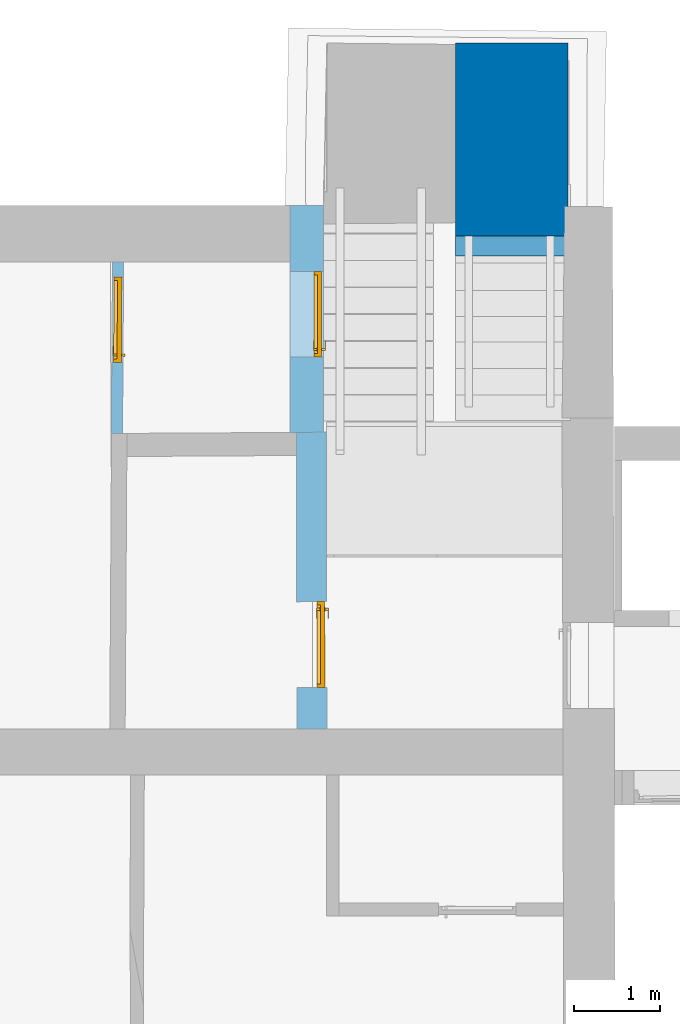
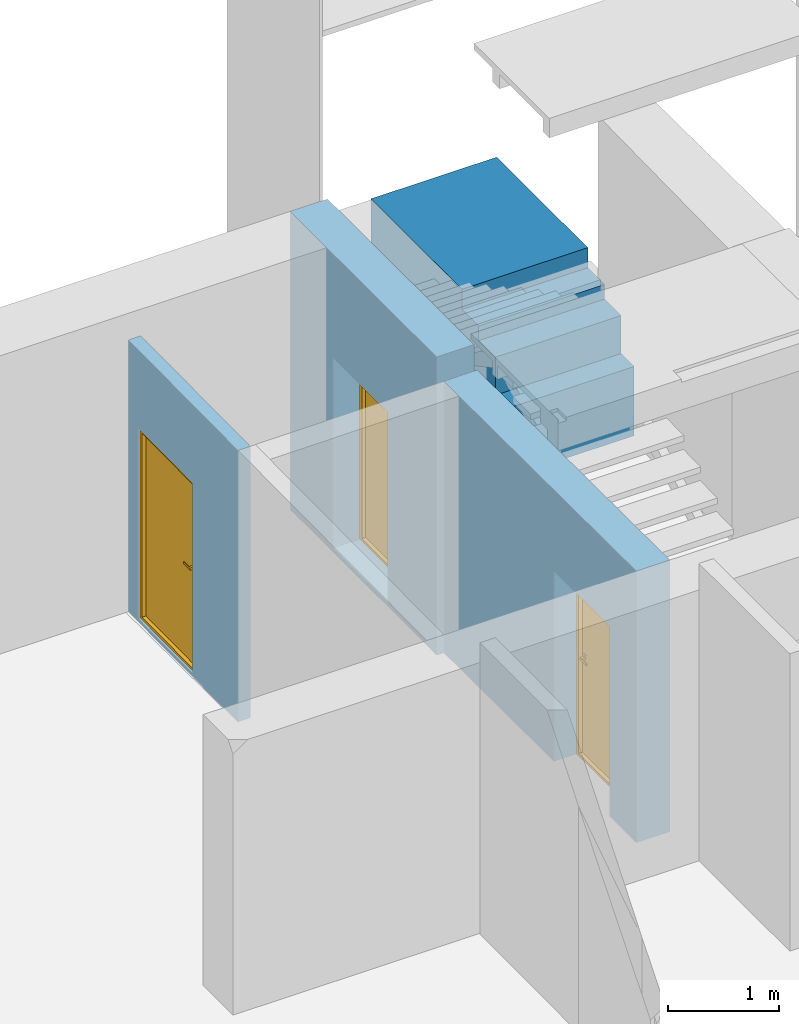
# One storey, part 11 of 17: 3 doors, 1 wall, 4 openings, plus 3 elements that do not belong to this part.
"""IFC2X3 building model written with IfcOpenShell, lengths in millimetres."""

from ifc_helpers import new_model, entity, si_unit, converted_unit, derived_unit, direction, frame, frame_2d, origin, place, context, subcontext, project, spatial, polyline, rectangle, outline, extrude, clip, bounded_halfspace, faceted_brep, source, transform, mapped, material, material_list, layer, layer_set, layer_usage, type_object, type_shapes, element, fill, save


model = new_model("IFC2X3")

# Units and contexts
model_context = context("Model", 3, precision=0.01, world=origin(), true_north=direction((6.12303176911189e-17, 1.0)))
context_of_model = context(None, 3, precision=0.01, world=origin(), true_north=direction((6.12303176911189e-17, 1.0)))
body_context = subcontext(model_context, "Body", "Model", "MODEL_VIEW")
ifc_project = project(units=[si_unit("LENGTHUNIT", "METRE", prefix="MILLI"), si_unit("AREAUNIT", "SQUARE_METRE"), si_unit("VOLUMEUNIT", "CUBIC_METRE"), converted_unit("PLANEANGLEUNIT", "DEGREE", entity("IfcRatioMeasure", 0.0174532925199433), si_unit("PLANEANGLEUNIT", "RADIAN"), dimensions=[0, 0, 0, 0, 0, 0, 0]), si_unit("MASSUNIT", "GRAM", prefix="KILO"), derived_unit("MASSDENSITYUNIT", [(si_unit("MASSUNIT", "GRAM", prefix="KILO"), 1), (si_unit("LENGTHUNIT", "METRE"), -3)]), si_unit("TIMEUNIT", "SECOND"), si_unit("FREQUENCYUNIT", "HERTZ"), si_unit("THERMODYNAMICTEMPERATUREUNIT", "DEGREE_CELSIUS"), derived_unit("THERMALTRANSMITTANCEUNIT", [(si_unit("MASSUNIT", "GRAM", prefix="KILO"), 1), (si_unit("THERMODYNAMICTEMPERATUREUNIT", "KELVIN"), -1), (si_unit("TIMEUNIT", "SECOND"), -3)]), derived_unit("VOLUMETRICFLOWRATEUNIT", [(si_unit("LENGTHUNIT", "METRE"), 3), (si_unit("TIMEUNIT", "SECOND"), -1)]), si_unit("ELECTRICCURRENTUNIT", "AMPERE"), si_unit("ELECTRICVOLTAGEUNIT", "VOLT"), si_unit("POWERUNIT", "WATT"), si_unit("FORCEUNIT", "NEWTON", prefix="KILO"), si_unit("ILLUMINANCEUNIT", "LUX"), si_unit("LUMINOUSFLUXUNIT", "LUMEN"), si_unit("LUMINOUSINTENSITYUNIT", "CANDELA"), derived_unit("USERDEFINED", [(si_unit("MASSUNIT", "GRAM", prefix="KILO"), -1), (si_unit("LENGTHUNIT", "METRE"), -2), (si_unit("TIMEUNIT", "SECOND"), 3), (si_unit("LUMINOUSFLUXUNIT", "LUMEN"), 1)]), derived_unit("LINEARVELOCITYUNIT", [(si_unit("LENGTHUNIT", "METRE"), 1), (si_unit("TIMEUNIT", "SECOND"), -1)]), si_unit("PRESSUREUNIT", "PASCAL"), derived_unit("USERDEFINED", [(si_unit("LENGTHUNIT", "METRE"), -2), (si_unit("MASSUNIT", "GRAM", prefix="KILO"), 1), (si_unit("TIMEUNIT", "SECOND"), -2)])], contexts=[model_context, context_of_model])

# Site, building, storey
site_placement = place(None, frame((121442.264707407, 135347.995453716, -1800.0)))
site = spatial("IfcSite", under=ifc_project, at=site_placement, Name="Surface", CompositionType="ELEMENT")
building_placement = place(site_placement, origin())
building = spatial("IfcBuilding", under=site, at=building_placement, CompositionType="ELEMENT")
storey_placement = place(building_placement, frame((0.0, 0.0, -1490.0)))
storey = spatial("IfcBuildingStorey", under=building, at=storey_placement, Name="Kelder", CompositionType="ELEMENT", Elevation=-1489.99999999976)

# Wall, openings, door
ifc_material_1 = material(Name="__Betoonelement")
ifc_layer_1 = layer(ifc_material_1, 390.0)
ifc_layer_set_1 = layer_set([ifc_layer_1], Name="Basic Wall:39_Betoon 3")
ifc_layer_usage_1 = layer_usage(ifc_layer_set_1, "AXIS2", "POSITIVE", -195.0)
wall_type_1 = type_object("IfcWallType", Name="Basic Wall:39_Betoon 3", PredefinedType="STANDARD", material=ifc_layer_set_1)
wall_1_placement = place(storey_placement, frame((-85548.9772613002, -117488.993950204, 0.0), z_axis=(0.0, 0.0, 1.0), x_axis=(0.0, 1.0, 0.0)))
wall_1 = element("IfcWallStandardCase", 1, at=wall_1_placement, inside=storey, type_object=wall_type_1, material=ifc_layer_usage_1, Name="Basic Wall:39_Betoon 3", ObjectType="Basic Wall:39_Betoon 3", context=body_context, shape_type="SweptSolid", body=[
    extrude(outline(polyline([(-247.566150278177, -1434.44422689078), (142.433849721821, -1434.44422689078), (142.433849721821, -774.444226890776), (142.433849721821, 1215.38830939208), (67.8307513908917, 1214.93352456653), (-247.566150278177, 1213.01084671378), (-247.566150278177, -1434.44422689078)])), frame((1215.38830939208, 52.5661502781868, 0.0), z_axis=(0.0, 0.0, 1.0), x_axis=(0.0, 1.0, 0.0)), (0.0, 0.0, 1.0), 3290.0),
])
opening_1_placement = place(storey_placement, frame((-85548.9772613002, -117488.993950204, 0.0), z_axis=(0.0, 0.0, 1.0), x_axis=(0.0, 1.0, 0.0)))
element("IfcOpeningElement", 2, at=opening_1_placement, cuts=wall_1, Name="Basic Wall:39_Betoon 3:1", ObjectType="Opening", context=body_context, shape_type="SweptSolid", body=[
    extrude(rectangle(XDim=2099.99999999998, YDim=999.999999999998, at=frame_2d((0.0, 8.66862137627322e-12), x_axis=(1.0, 0.0))), frame((1378.89145404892, 195.0, 1095.0), z_axis=(0.0, -1.0, 0.0), x_axis=(0.0, 0.0, 1.0)), (0.0, 0.0, 1.0), 389.999999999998),
])
opening_2_placement = place(wall_1_placement, frame((1878.89145404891, 195.0, 45.0)))
opening_2 = element("IfcOpeningElement", 3, at=opening_2_placement, cuts=wall_1, Name="sma_D01:1000 x 2100mm SU-9 Tuletokke:1", ObjectType="Opening", context=body_context, shape_type="SweptSolid", body=[
    extrude(rectangle(XDim=2099.99999999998, YDim=1000.0, at=frame_2d((1049.99999999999, 500.0), x_axis=(1.0, 0.0))), frame((0.0, 0.0, 0.0), z_axis=(0.0, -1.0, 0.0), x_axis=(0.0, 0.0, 1.0)), (0.0, 0.0, 1.0), 390.0),
])
ifc_material_2 = material(Name="Metal - Aluminium")
ifc_material_3 = material(Name="Metalli - teras- valge")
ifc_material_list_1 = material_list([ifc_material_2, ifc_material_3])
ifc_material_list_2 = material_list([ifc_material_2, ifc_material_3])
door_style_1 = type_object("IfcDoorStyle", Name="1000 x 2100mm SU-9 Tuletokke", ConstructionType="NOTDEFINED", OperationType="SINGLE_SWING_LEFT", ParameterTakesPrecedence=False, Sizeable=False, material=ifc_material_list_2)
shared_shape_1 = source(origin(), body_context, "Body", "Brep", [
    faceted_brep([(900.0, 280.0, 1112.5), (805.0, 280.0, 1112.5), (805.0, 275.0, 1112.5), (925.0, 275.0, 1112.5), (925.0, 318.0, 1112.5), (900.0, 318.0, 1112.5), (900.0, 280.0, 1087.5), (900.0, 318.0, 1087.5), (925.0, 318.0, 1087.5), (925.0, 275.0, 1087.5), (805.0, 275.0, 1087.5), (805.0, 280.0, 1087.5)], [[[0, 1, 2, 3, 4, 5]], [[6, 7, 8, 9, 10, 11]], [[5, 7, 6, 0]], [[4, 8, 7, 5]], [[3, 9, 8, 4]], [[2, 10, 9, 3]], [[1, 11, 10, 2]], [[0, 6, 11, 1]]]),
    faceted_brep([(887.500000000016, 318.0, 1137.5), (937.500000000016, 318.0, 1137.5), (937.500000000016, 320.0, 1137.5), (887.500000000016, 320.0, 1137.5), (887.500000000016, 318.0, 1017.5), (887.500000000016, 320.0, 1017.5), (937.500000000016, 320.0, 1017.5), (937.500000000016, 318.0, 1017.5)], [[[0, 1, 2, 3]], [[4, 5, 6, 7]], [[3, 5, 4, 0]], [[2, 6, 5, 3]], [[1, 7, 6, 2]], [[0, 4, 7, 1]]]),
    faceted_brep([(900.0, 410.0, 1112.5), (900.0, 372.0, 1112.5), (925.0, 372.0, 1112.5), (925.0, 415.0, 1112.5), (805.0, 415.0, 1112.5), (805.0, 410.0, 1112.5), (900.0, 410.0, 1087.5), (805.0, 410.0, 1087.5), (805.0, 415.0, 1087.5), (925.0, 415.0, 1087.5), (925.0, 372.0, 1087.5), (900.0, 372.0, 1087.5)], [[[0, 1, 2, 3, 4, 5]], [[6, 7, 8, 9, 10, 11]], [[1, 0, 6, 11]], [[2, 1, 11, 10]], [[3, 2, 10, 9]], [[4, 3, 9, 8]], [[5, 4, 8, 7]], [[0, 5, 7, 6]]]),
    faceted_brep([(887.500000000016, 372.0, 1137.5), (887.500000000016, 370.0, 1137.5), (937.500000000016, 370.0, 1137.5), (937.500000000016, 372.0, 1137.5), (887.500000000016, 372.0, 1017.5), (937.500000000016, 372.0, 1017.5), (937.500000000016, 370.0, 1017.5), (887.500000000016, 370.0, 1017.5)], [[[0, 1, 2, 3]], [[4, 5, 6, 7]], [[1, 0, 4, 7]], [[2, 1, 7, 6]], [[3, 2, 6, 5]], [[0, 3, 5, 4]]]),
    faceted_brep([(0.0, 280.0, 0.0), (0.0, 370.0, 0.0), (25.0, 370.0, 0.0), (25.0, 320.0, 0.0), (40.0, 320.0, 0.0), (40.0, 280.0, 0.0), (40.0, 280.0, 2060.0), (960.0, 280.0, 2060.0), (960.0, 280.0, 0.0), (1000.0, 280.0, 0.0), (1000.0, 280.0, 2100.0), (0.0, 280.0, 2100.0), (40.0, 320.0, 2060.0), (25.0, 320.0, 2075.0), (975.0, 320.0, 2075.0), (975.0, 320.0, 0.0), (960.0, 320.0, 0.0), (960.0, 320.0, 2060.0), (25.0, 370.0, 2075.0), (0.0, 370.0, 2100.0), (1000.0, 370.0, 2100.0), (1000.0, 370.0, 0.0), (975.0, 370.0, 0.0), (975.0, 370.0, 2075.0)], [[[0, 1, 2, 3, 4, 5]], [[5, 6, 7, 8, 9, 10, 11, 0]], [[4, 12, 6, 5]], [[3, 13, 14, 15, 16, 17, 12, 4]], [[2, 18, 13, 3]], [[1, 19, 20, 21, 22, 23, 18, 2]], [[0, 11, 19, 1]], [[10, 9, 21, 20]], [[9, 8, 16, 15, 22, 21]], [[17, 16, 8, 7]], [[23, 22, 15, 14]], [[12, 17, 7, 6]], [[18, 23, 14, 13]], [[11, 10, 20, 19]]]),
    faceted_brep([(975.0, 320.0, 2075.0), (25.0, 320.0, 2075.0), (25.0, 320.0, 20.0), (975.0, 320.0, 20.0), (975.0, 370.0, 2075.0), (975.0, 370.0, 20.0), (25.0, 370.0, 20.0), (25.0, 370.0, 2075.0)], [[[0, 1, 2, 3]], [[4, 5, 6, 7]], [[3, 5, 4, 0]], [[2, 6, 5, 3]], [[1, 7, 6, 2]], [[0, 4, 7, 1]]]),
    faceted_brep([(40.0, 280.0, 30.0), (40.0, 320.0, 30.0), (40.0, 320.0, 20.0), (40.0, 320.0, 0.0), (40.0, 280.0, 0.0), (960.0, 280.0, 30.0), (960.0, 280.0, 0.0), (960.0, 320.0, 0.0), (960.0, 320.0, 20.0), (960.0, 320.0, 30.0), (25.0, 320.0, 0.0), (25.0, 370.0, 0.0), (975.0, 370.0, 0.0), (975.0, 320.0, 0.0), (25.0, 370.0, 20.0), (25.0, 320.0, 20.0), (975.0, 370.0, 20.0), (975.0, 320.0, 20.0)], [[[0, 1, 2, 3, 4]], [[5, 6, 7, 8, 9]], [[4, 6, 5, 0]], [[3, 10, 11, 12, 13, 7, 6, 4]], [[9, 8, 2, 1]], [[0, 5, 9, 1]], [[14, 11, 10, 15]], [[16, 17, 13, 12]], [[15, 2, 8, 17, 16, 14]], [[10, 3, 2, 15]], [[14, 16, 12, 11]], [[17, 8, 7, 13]]]),
])
type_shapes(door_style_1, [shared_shape_1])
door_1_placement = place(opening_2_placement, frame((0.0, 0.0, 0.0), z_axis=(0.0, 0.0, 1.0), x_axis=(-1.0, 0.0, 0.0)))
door_1 = element("IfcDoor", 4, at=door_1_placement, inside=storey, type_object=door_style_1, material=ifc_material_list_1, Name="sma_D01:1000 x 2100mm SU-9 Tuletokke", ObjectType="1000 x 2100mm SU-9 Tuletokke", OverallHeight=2099.99999999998, OverallWidth=999.999999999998, context=body_context, shape_type="MappedRepresentation", body=[
    mapped(shared_shape_1, transform((0.0, 0.0, 0.0), scale=1.0)),
])
fill(opening_2, door_1)

# Wall, opening, door
wall_type_2 = type_object("IfcWallType", Name="Basic Wall:35_Betoon 3", PredefinedType="NOTDEFINED")
wall_2_placement = place(storey_placement, frame((-85484.2281941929, -120949.187594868, 0.0), z_axis=(0.0, 0.0, 1.0), x_axis=(-0.00293158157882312, 0.999995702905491, 0.0)))
wall_2 = element("IfcWall", 5, at=wall_2_placement, inside=storey, type_object=wall_type_2, material=ifc_material_1, Name="Basic Wall:35_Betoon 3", ObjectType="Basic Wall:35_Betoon 3", context=body_context, shape_type="Brep", body=[
    faceted_brep([(0.0, -175.0, 2997.0), (0.0, -175.0, 0.0), (484.659588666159, -175.0, 0.0), (484.659588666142, -175.0, 2100.0), (1484.65958866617, -175.0, 2100.0), (1484.65958866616, -175.0, 0.0), (3462.28387186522, -175.0, 0.0), (3462.28387186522, -175.0, 2997.0), (2173.3944385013, -175.0, 2997.0), (1.02605796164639, 175.0, 0.0), (1.02605796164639, 175.0, 2997.0), (2174.42049646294, 175.0, 2997.0), (3191.17497745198, 175.0, 2997.0), (3461.17632926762, 175.0, 2997.0), (3461.17632926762, 175.0, 0.0), (3191.17497745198, 175.0, 0.0), (1484.65958866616, 175.0, 0.0), (1484.65958866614, 175.0, 2100.0), (484.659588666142, 175.0, 2100.0), (484.659588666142, 175.0, 0.0)], [[[0, 1, 2, 3, 4, 5, 6, 7, 8]], [[9, 10, 11, 12, 13, 14, 15, 16, 17, 18, 19]], [[1, 9, 19, 2]], [[1, 0, 10, 9]], [[7, 6, 14, 13]], [[7, 13, 12, 11, 8]], [[0, 8, 11, 10]], [[18, 3, 2, 19]], [[3, 18, 17, 4]], [[4, 17, 16, 5]], [[14, 6, 5, 16, 15]]]),
])
opening_3_placement = place(wall_2_placement, frame((1484.1401821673, 176.465790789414, 0.0)))
opening_3 = element("IfcOpeningElement", 6, at=opening_3_placement, cuts=wall_2, Name="sma_D01:1000 x 2100mm SU-9 Tuletokke:1", ObjectType="Opening", context=body_context, shape_type="SweptSolid", body=[
    extrude(rectangle(XDim=2099.99999999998, YDim=1000.0, at=frame_2d((1049.99999999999, 500.0), x_axis=(1.0, 0.0))), frame((0.0, 0.0, 0.0), z_axis=(0.00293158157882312, -0.999995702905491, 0.0), x_axis=(0.0, 0.0, 1.0)), (0.0, 0.0, 1.0), 350.0),
])
ifc_material_list_3 = material_list([ifc_material_2, ifc_material_3])
ifc_material_list_4 = material_list([ifc_material_2, ifc_material_3])
door_style_2 = type_object("IfcDoorStyle", Name="1000 x 2100mm SU-9 Tuletokke", ConstructionType="NOTDEFINED", OperationType="SINGLE_SWING_RIGHT", ParameterTakesPrecedence=False, Sizeable=False, material=ifc_material_list_4)
shared_shape_2 = source(origin(), body_context, "Body", "Brep", [
    faceted_brep([(100.0, 240.0, 1112.5), (100.0, 278.0, 1112.5), (75.0, 278.0, 1112.5), (75.0, 235.0, 1112.5), (195.0, 235.0, 1112.5), (195.0, 240.0, 1112.5), (100.0, 240.0, 1087.5), (195.0, 240.0, 1087.5), (195.0, 235.0, 1087.5), (75.0, 235.0, 1087.5), (75.0, 278.0, 1087.5), (100.0, 278.0, 1087.5)], [[[0, 1, 2, 3, 4, 5]], [[6, 7, 8, 9, 10, 11]], [[1, 0, 6, 11]], [[2, 1, 11, 10]], [[3, 2, 10, 9]], [[4, 3, 9, 8]], [[5, 4, 8, 7]], [[0, 5, 7, 6]]]),
    faceted_brep([(112.499999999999, 278.0, 1137.5), (112.499999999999, 280.0, 1137.5), (62.499999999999, 280.0, 1137.5), (62.499999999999, 278.0, 1137.5), (112.499999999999, 278.0, 1017.5), (62.499999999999, 278.0, 1017.5), (62.499999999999, 280.0, 1017.5), (112.499999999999, 280.0, 1017.5)], [[[0, 1, 2, 3]], [[4, 5, 6, 7]], [[1, 0, 4, 7]], [[2, 1, 7, 6]], [[3, 2, 6, 5]], [[0, 3, 5, 4]]]),
    faceted_brep([(100.0, 370.0, 1112.5), (195.0, 370.0, 1112.5), (195.0, 375.0, 1112.5), (75.0, 375.0, 1112.5), (75.0, 332.0, 1112.5), (100.0, 332.0, 1112.5), (100.0, 370.0, 1087.5), (100.0, 332.0, 1087.5), (75.0, 332.0, 1087.5), (75.0, 375.0, 1087.5), (195.0, 375.0, 1087.5), (195.0, 370.0, 1087.5)], [[[0, 1, 2, 3, 4, 5]], [[6, 7, 8, 9, 10, 11]], [[5, 7, 6, 0]], [[4, 8, 7, 5]], [[3, 9, 8, 4]], [[2, 10, 9, 3]], [[1, 11, 10, 2]], [[0, 6, 11, 1]]]),
    faceted_brep([(112.499999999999, 332.0, 1137.5), (62.499999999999, 332.0, 1137.5), (62.499999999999, 330.0, 1137.5), (112.499999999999, 330.0, 1137.5), (112.499999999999, 332.0, 1017.5), (112.499999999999, 330.0, 1017.5), (62.499999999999, 330.0, 1017.5), (62.499999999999, 332.0, 1017.5)], [[[0, 1, 2, 3]], [[4, 5, 6, 7]], [[3, 5, 4, 0]], [[2, 6, 5, 3]], [[1, 7, 6, 2]], [[0, 4, 7, 1]]]),
    faceted_brep([(1000.0, 240.0, 0.0), (960.0, 240.0, 0.0), (960.0, 280.0, 0.0), (975.0, 280.0, 0.0), (975.0, 330.0, 0.0), (1000.0, 330.0, 0.0), (1000.0, 240.0, 2100.0), (0.0, 240.0, 2100.0), (0.0, 240.0, 0.0), (40.0, 240.0, 0.0), (40.0, 240.0, 2060.0), (960.0, 240.0, 2060.0), (960.0, 280.0, 2060.0), (40.0, 280.0, 2060.0), (40.0, 280.0, 0.0), (25.0, 280.0, 0.0), (25.0, 280.0, 2075.0), (975.0, 280.0, 2075.0), (975.0, 330.0, 2075.0), (25.0, 330.0, 2075.0), (25.0, 330.0, 0.0), (0.0, 330.0, 0.0), (0.0, 330.0, 2100.0), (1000.0, 330.0, 2100.0)], [[[0, 1, 2, 3, 4, 5]], [[1, 0, 6, 7, 8, 9, 10, 11]], [[2, 1, 11, 12]], [[3, 2, 12, 13, 14, 15, 16, 17]], [[4, 3, 17, 18]], [[5, 4, 18, 19, 20, 21, 22, 23]], [[0, 5, 23, 6]], [[7, 22, 21, 8]], [[8, 21, 20, 15, 14, 9]], [[13, 10, 9, 14]], [[19, 16, 15, 20]], [[12, 11, 10, 13]], [[18, 17, 16, 19]], [[6, 23, 22, 7]]]),
    faceted_brep([(25.0, 280.0, 2075.0), (25.0, 280.0, 20.0), (975.0, 280.0, 20.0), (975.0, 280.0, 2075.0), (25.0, 330.0, 2075.0), (975.0, 330.0, 2075.0), (975.0, 330.0, 20.0), (25.0, 330.0, 20.0)], [[[0, 1, 2, 3]], [[4, 5, 6, 7]], [[1, 0, 4, 7]], [[2, 1, 7, 6]], [[3, 2, 6, 5]], [[0, 3, 5, 4]]]),
    faceted_brep([(960.0, 240.0, 30.0), (960.0, 240.0, 0.0), (960.0, 280.0, 0.0), (960.0, 280.0, 20.0), (960.0, 280.0, 30.0), (40.0, 240.0, 30.0), (40.0, 280.0, 30.0), (40.0, 280.0, 20.0), (40.0, 280.0, 0.0), (40.0, 240.0, 0.0), (25.0, 280.0, 0.0), (25.0, 330.0, 0.0), (975.0, 330.0, 0.0), (975.0, 280.0, 0.0), (975.0, 330.0, 20.0), (975.0, 280.0, 20.0), (25.0, 330.0, 20.0), (25.0, 280.0, 20.0)], [[[0, 1, 2, 3, 4]], [[5, 6, 7, 8, 9]], [[1, 0, 5, 9]], [[2, 1, 9, 8, 10, 11, 12, 13]], [[6, 4, 3, 7]], [[0, 4, 6, 5]], [[14, 15, 13, 12]], [[16, 11, 10, 17]], [[15, 14, 16, 17, 7, 3]], [[13, 15, 3, 2]], [[14, 12, 11, 16]], [[17, 10, 8, 7]]]),
])
type_shapes(door_style_2, [shared_shape_2])
door_2_placement = place(opening_3_placement, frame((0.0, 2.88585792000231, 0.0), z_axis=(0.0, 0.0, 1.0), x_axis=(-1.0, 0.0, 0.0)))
door_2 = element("IfcDoor", 7, at=door_2_placement, inside=storey, type_object=door_style_2, material=ifc_material_list_3, Name="sma_D01:1000 x 2100mm SU-9 Tuletokke", ObjectType="1000 x 2100mm SU-9 Tuletokke", OverallHeight=2099.99999999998, OverallWidth=1000.0, context=body_context, shape_type="MappedRepresentation", body=[
    mapped(shared_shape_2, transform((0.0, 0.0, 0.0), scale=1.0)),
])
fill(opening_3, door_2)

ifc_layer_2 = layer(ifc_material_1, 130.0)
ifc_layer_set_2 = layer_set([ifc_layer_2], Name="Basic Wall:13_Betoon 2")
ifc_layer_usage_2 = layer_usage(ifc_layer_set_2, "AXIS2", "NEGATIVE", 65.0)
wall_type_3 = type_object("IfcWallType", Name="Basic Wall:13_Betoon 2", PredefinedType="STANDARD", material=ifc_layer_set_2)
wall_3_placement = place(storey_placement, frame((-87761.421549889, -117502.124568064, 0.0), z_axis=(0.0, 0.0, 1.0), x_axis=(0.00670654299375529, 0.999977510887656, 0.0)))
wall_3 = element("IfcWallStandardCase", 8, at=wall_3_placement, inside=storey, type_object=wall_type_3, material=ifc_layer_usage_2, Name="Basic Wall:13_Betoon 2", ObjectType="Basic Wall:13_Betoon 2", context=body_context, shape_type="Clipping", body=[
    clip(extrude(outline(polyline([(2003.44413511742, -65.0), (2002.57226492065, 65.0), (0.0, 65.0), (0.0278621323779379, 62.8238277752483), (1.66442580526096, -65.0), (2003.44413511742, -65.0)])), origin(), (0.0, 0.0, 1.0), 2997.0), bounded_halfspace(frame((1.66442580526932, -65.0, 2997.0), z_axis=(0.0, 0.0, -1.0), x_axis=(-0.999977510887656, -0.00670654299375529, 0.0)), True, frame((1.66442580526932, -65.0, 2997.0)), polyline([(0.0, 0.0), (2001.77970931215, 0.0), (2000.90783911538, 130.0), (-1.66442580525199, 130.0), (-1.63656367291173, 127.823827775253), (0.0, 0.0)]))),
])
opening_4_placement = place(wall_3_placement, frame((1826.93806172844, 65.0, 32.5000000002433)))
opening_4 = element("IfcOpeningElement", 9, at=opening_4_placement, cuts=wall_3, Name="sma_D01:1000 x 2100mm SU-9 Tuletokke:1", ObjectType="Opening", context=body_context, shape_type="SweptSolid", body=[
    extrude(rectangle(XDim=2099.99999999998, YDim=1000.0, at=frame_2d((1049.99999999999, 500.0), x_axis=(1.0, 0.0))), frame((0.0, 0.0, 0.0), z_axis=(0.0, -1.0, 0.0), x_axis=(0.0, 0.0, 1.0)), (0.0, 0.0, 1.0), 130.0),
])
ifc_material_list_5 = material_list([ifc_material_2, ifc_material_3])
ifc_material_list_6 = material_list([ifc_material_2, ifc_material_3])
door_style_3 = type_object("IfcDoorStyle", Name="1000 x 2100mm SU-9 Tuletokke", ConstructionType="NOTDEFINED", OperationType="SINGLE_SWING_LEFT", ParameterTakesPrecedence=False, Sizeable=False, material=ifc_material_list_6)
shared_shape_3 = source(origin(), body_context, "Body", "Brep", [
    faceted_brep([(900.0, 20.0, 1112.5), (805.0, 20.0, 1112.5), (805.0, 15.0, 1112.5), (925.0, 15.0, 1112.5), (925.0, 58.0, 1112.5), (900.0, 58.0, 1112.5), (900.0, 20.0, 1087.5), (900.0, 58.0, 1087.5), (925.0, 58.0, 1087.5), (925.0, 15.0, 1087.5), (805.0, 15.0, 1087.5), (805.0, 20.0, 1087.5)], [[[0, 1, 2, 3, 4, 5]], [[6, 7, 8, 9, 10, 11]], [[5, 7, 6, 0]], [[4, 8, 7, 5]], [[3, 9, 8, 4]], [[2, 10, 9, 3]], [[1, 11, 10, 2]], [[0, 6, 11, 1]]]),
    faceted_brep([(887.500000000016, 58.0, 1137.5), (937.500000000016, 58.0, 1137.5), (937.500000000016, 60.0, 1137.5), (887.500000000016, 60.0, 1137.5), (887.500000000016, 58.0, 1017.5), (887.500000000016, 60.0, 1017.5), (937.500000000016, 60.0, 1017.5), (937.500000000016, 58.0, 1017.5)], [[[0, 1, 2, 3]], [[4, 5, 6, 7]], [[3, 5, 4, 0]], [[2, 6, 5, 3]], [[1, 7, 6, 2]], [[0, 4, 7, 1]]]),
    faceted_brep([(900.0, 150.0, 1112.5), (900.0, 112.0, 1112.5), (925.0, 112.0, 1112.5), (925.0, 155.0, 1112.5), (805.0, 155.0, 1112.5), (805.0, 150.0, 1112.5), (900.0, 150.0, 1087.5), (805.0, 150.0, 1087.5), (805.0, 155.0, 1087.5), (925.0, 155.0, 1087.5), (925.0, 112.0, 1087.5), (900.0, 112.0, 1087.5)], [[[0, 1, 2, 3, 4, 5]], [[6, 7, 8, 9, 10, 11]], [[1, 0, 6, 11]], [[2, 1, 11, 10]], [[3, 2, 10, 9]], [[4, 3, 9, 8]], [[5, 4, 8, 7]], [[0, 5, 7, 6]]]),
    faceted_brep([(887.500000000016, 112.0, 1137.5), (887.500000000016, 110.0, 1137.5), (937.500000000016, 110.0, 1137.5), (937.500000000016, 112.0, 1137.5), (887.500000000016, 112.0, 1017.5), (937.500000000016, 112.0, 1017.5), (937.500000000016, 110.0, 1017.5), (887.500000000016, 110.0, 1017.5)], [[[0, 1, 2, 3]], [[4, 5, 6, 7]], [[1, 0, 4, 7]], [[2, 1, 7, 6]], [[3, 2, 6, 5]], [[0, 3, 5, 4]]]),
    faceted_brep([(0.0, 20.0, 0.0), (0.0, 110.0, 0.0), (25.0, 110.0, 0.0), (25.0, 60.0, 0.0), (40.0, 60.0, 0.0), (40.0, 20.0, 0.0), (40.0, 20.0, 2060.0), (960.0, 20.0, 2060.0), (960.0, 20.0, 0.0), (1000.0, 20.0, 0.0), (1000.0, 20.0, 2100.0), (0.0, 20.0, 2100.0), (40.0, 60.0, 2060.0), (25.0, 60.0, 2075.0), (975.0, 60.0, 2075.0), (975.0, 60.0, 0.0), (960.0, 60.0, 0.0), (960.0, 60.0, 2060.0), (25.0, 110.0, 2075.0), (0.0, 110.0, 2100.0), (1000.0, 110.0, 2100.0), (1000.0, 110.0, 0.0), (975.0, 110.0, 0.0), (975.0, 110.0, 2075.0)], [[[0, 1, 2, 3, 4, 5]], [[5, 6, 7, 8, 9, 10, 11, 0]], [[4, 12, 6, 5]], [[3, 13, 14, 15, 16, 17, 12, 4]], [[2, 18, 13, 3]], [[1, 19, 20, 21, 22, 23, 18, 2]], [[0, 11, 19, 1]], [[10, 9, 21, 20]], [[9, 8, 16, 15, 22, 21]], [[17, 16, 8, 7]], [[23, 22, 15, 14]], [[12, 17, 7, 6]], [[18, 23, 14, 13]], [[11, 10, 20, 19]]]),
    faceted_brep([(975.0, 60.0, 2075.0), (25.0, 60.0, 2075.0), (25.0, 60.0, 20.0), (975.0, 60.0, 20.0), (975.0, 110.0, 2075.0), (975.0, 110.0, 20.0), (25.0, 110.0, 20.0), (25.0, 110.0, 2075.0)], [[[0, 1, 2, 3]], [[4, 5, 6, 7]], [[3, 5, 4, 0]], [[2, 6, 5, 3]], [[1, 7, 6, 2]], [[0, 4, 7, 1]]]),
    faceted_brep([(40.0, 20.0, 30.0), (40.0, 60.0, 30.0), (40.0, 60.0, 20.0), (40.0, 60.0, 0.0), (40.0, 20.0, 0.0), (960.0, 20.0, 30.0), (960.0, 20.0, 0.0), (960.0, 60.0, 0.0), (960.0, 60.0, 20.0), (960.0, 60.0, 30.0), (25.0, 60.0, 0.0), (25.0, 110.0, 0.0), (975.0, 110.0, 0.0), (975.0, 60.0, 0.0), (25.0, 110.0, 20.0), (25.0, 60.0, 20.0), (975.0, 110.0, 20.0), (975.0, 60.0, 20.0)], [[[0, 1, 2, 3, 4]], [[5, 6, 7, 8, 9]], [[4, 6, 5, 0]], [[3, 10, 11, 12, 13, 7, 6, 4]], [[9, 8, 2, 1]], [[0, 5, 9, 1]], [[14, 11, 10, 15]], [[16, 17, 13, 12]], [[15, 2, 8, 17, 16, 14]], [[10, 3, 2, 15]], [[14, 16, 12, 11]], [[17, 8, 7, 13]]]),
])
type_shapes(door_style_3, [shared_shape_3])
door_3_placement = place(opening_4_placement, frame((0.0, 0.0, 0.0), z_axis=(0.0, 0.0, 1.0), x_axis=(-1.0, 0.0, 0.0)))
door_3 = element("IfcDoor", 10, at=door_3_placement, inside=storey, type_object=door_style_3, material=ifc_material_list_5, Name="sma_D01:1000 x 2100mm SU-9 Tuletokke", ObjectType="1000 x 2100mm SU-9 Tuletokke", OverallHeight=2099.99999999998, OverallWidth=1000.0, context=body_context, shape_type="MappedRepresentation", body=[
    mapped(shared_shape_3, transform((0.0, 0.0, 0.0), scale=1.0)),
])
fill(opening_4, door_3)

# Wall
wall_type_4 = type_object("IfcWallType", Name="Walls 17:Walls 17", PredefinedType="NOTDEFINED")
wall_4_placement = place(storey_placement, frame((-83809.2682302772, -115432.281838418, 38.7499999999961), z_axis=(0.0, 0.0, 1.0), x_axis=(0.0, 1.0, 0.0)))
element("IfcWall", 11, at=wall_4_placement, inside=storey, type_object=wall_type_4, Name="Walls 17:Walls 17", ObjectType="Walls 17:Walls 17", context=body_context, shape_type="Brep", body=[
    faceted_brep([(837.582400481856, -1312.64606791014, 1566.25000000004), (837.582400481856, -1312.64606791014, 1344.60369645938), (581.249316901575, -1312.64606791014, 1344.60369645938), (535.0, -1312.64606791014, 1344.60369645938), (535.0, -1312.64606791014, 1182.82936624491), (235.0, -1312.64606791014, 1182.82936624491), (235.0, -1312.64606791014, 1027.82936624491), (235.0, -1312.64606791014, 762.829366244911), (0.0, -1312.64606791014, 762.829366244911), (0.0, -1312.64606791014, 0.0), (581.249316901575, -1312.64606791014, 0.0), (2264.15670903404, -1312.64606791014, 0.0), (2483.95819698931, -1312.64606791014, 0.0), (2483.95819698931, -1312.64606791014, 1566.25000000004), (2454.37433016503, -1312.64606791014, 1566.25000000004), (2264.15670903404, -1312.64606791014, 1566.25000000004), (837.582400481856, 0.0, 1566.25000000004), (2468.4523432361, 0.0, 1566.25000000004), (2483.95819698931, 0.0, 1566.25000000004), (2483.95819698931, 0.0, 0.0), (0.0, 0.0, 0.0), (0.0, 0.0, 762.829366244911), (235.0, 0.0, 762.829366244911), (235.0, 0.0, 1027.82936624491), (235.0, 0.0, 1182.82936624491), (535.0, 0.0, 1182.82936624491), (535.0, 0.0, 1344.60369645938), (837.582400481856, 0.0, 1344.60369645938), (837.582400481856, -1287.3068053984, 1566.25000000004), (837.582400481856, -1287.3068053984, 1344.60369645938), (2483.95819698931, -498.486137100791, 1566.25000000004), (2483.95819698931, -499.736208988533, 1566.25000000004), (2483.95819698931, -1289.78164205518, 1566.25000000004)], [[[0, 1, 2, 3, 4, 5, 6, 7, 8, 9, 10, 11, 12, 13, 14, 15]], [[16, 17, 18, 19, 20, 21, 22, 23, 24, 25, 26, 27]], [[1, 0, 28, 16, 27, 29]], [[3, 2, 1, 29, 27, 26]], [[4, 3, 26, 25]], [[5, 4, 25, 24]], [[6, 5, 24, 23]], [[7, 6, 23, 22]], [[8, 7, 22, 21]], [[9, 8, 21, 20]], [[12, 11, 10, 9, 20, 19]], [[13, 12, 19, 18, 30, 31, 32]], [[0, 15, 14, 13, 32, 31, 30, 18, 17, 16, 28]]]),
])

save(model, "model.ifc")
